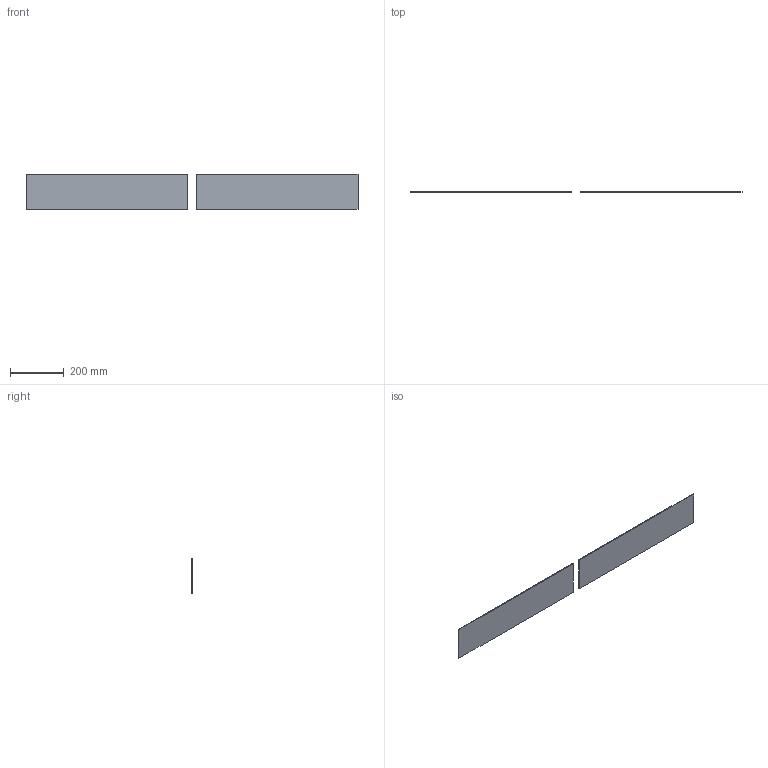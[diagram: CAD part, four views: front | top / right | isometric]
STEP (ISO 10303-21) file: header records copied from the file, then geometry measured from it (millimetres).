
FILE_DESCRIPTION(/* description */ (''),/* implementation_level */ '2;1');
FILE_NAME(/* name */ '1.frame-bottom#1.6#PCTBA-600-130-3',/* time_stamp */ '2014-12-01T20:11:26+01:00',/* author */ (''),/* organization */ (''),/* preprocessor_version */ 'ST-DEVELOPER v14',/* originating_system */ '',/* authorisation */ '');
FILE_SCHEMA (('AUTOMOTIVE_DESIGN'));
Length unit declared in the file: millimetre
Products named in the file (1): Document
Bounding box: 1230 x 3 x 131 mm (x, y, z)
Volume: 468000 mm3; surface area: 320760 mm2
Topology: 2 solids, 2 shells, 12 faces, 24 edges, 16 vertices
Faces by surface type: plane 12
Entity records: 571 total; most frequent: CARTESIAN_POINT 174, B_SPLINE_CURVE_WITH_KNOTS 72, ORIENTED_EDGE 48, PCURVE 48, DEFINITIONAL_REPRESENTATION 48, SURFACE_CURVE 24, EDGE_CURVE 24, VERTEX_POINT 16
